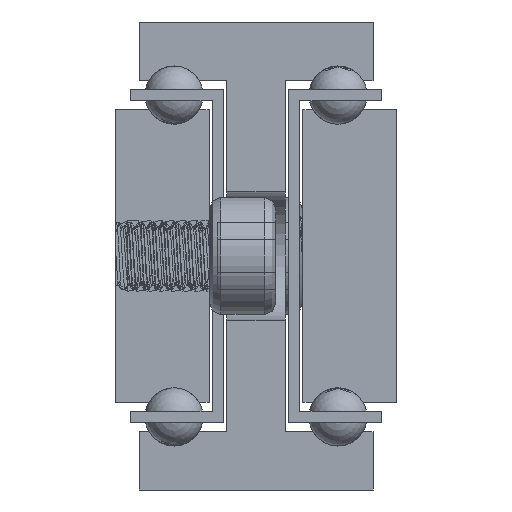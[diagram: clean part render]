
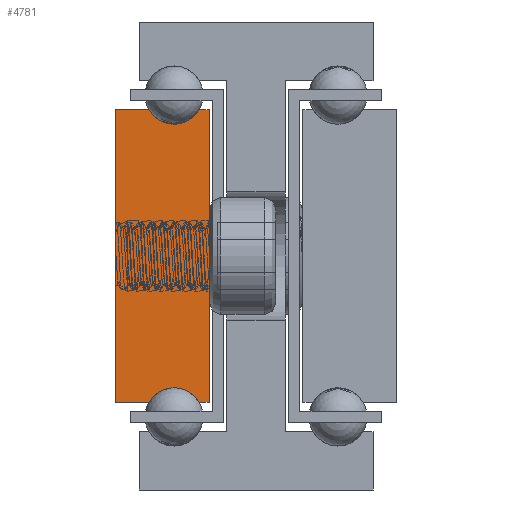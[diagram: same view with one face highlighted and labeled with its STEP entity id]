
A CAD part, front view. The second image highlights one B-rep face of the part: STEP entity #4781.
In plain terms, the highlighted planar face has unit normal (0, -1, 0).
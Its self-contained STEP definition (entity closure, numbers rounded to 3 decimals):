
#468=LINE('',#49206,#678);
#471=LINE('',#49212,#681);
#475=LINE('',#49224,#685);
#478=LINE('',#49230,#688);
#481=LINE('',#49236,#691);
#485=LINE('',#49246,#695);
#678=VECTOR('',#5664,1.);
#681=VECTOR('',#5669,1.);
#685=VECTOR('',#5681,1.);
#688=VECTOR('',#5686,1.);
#691=VECTOR('',#5691,1.);
#695=VECTOR('',#5703,1.);
#893=PLANE('',#5146);
#985=CIRCLE('',#5137,2.5);
#987=CIRCLE('',#5143,2.5);
#1353=FACE_OUTER_BOUND('',#1663,.T.);
#1663=EDGE_LOOP('',(#3662,#3663,#3664,#3665,#3666,#3667,#3668,#3669));
#2350=VERTEX_POINT('',#49203);
#2351=VERTEX_POINT('',#49205);
#2353=VERTEX_POINT('',#49211);
#2355=VERTEX_POINT('',#49217);
#2357=VERTEX_POINT('',#49223);
#2359=VERTEX_POINT('',#49229);
#2361=VERTEX_POINT('',#49235);
#2363=VERTEX_POINT('',#49241);
#2920=EDGE_CURVE('',#2351,#2350,#468,.T.);
#2923=EDGE_CURVE('',#2353,#2351,#471,.T.);
#2926=EDGE_CURVE('',#2355,#2353,#985,.T.);
#2929=EDGE_CURVE('',#2357,#2355,#475,.T.);
#2932=EDGE_CURVE('',#2359,#2357,#478,.T.);
#2935=EDGE_CURVE('',#2361,#2359,#481,.T.);
#2938=EDGE_CURVE('',#2363,#2361,#987,.T.);
#2941=EDGE_CURVE('',#2350,#2363,#485,.T.);
#3662=ORIENTED_EDGE('',*,*,#2941,.T.);
#3663=ORIENTED_EDGE('',*,*,#2938,.T.);
#3664=ORIENTED_EDGE('',*,*,#2935,.T.);
#3665=ORIENTED_EDGE('',*,*,#2932,.T.);
#3666=ORIENTED_EDGE('',*,*,#2929,.T.);
#3667=ORIENTED_EDGE('',*,*,#2926,.T.);
#3668=ORIENTED_EDGE('',*,*,#2923,.T.);
#3669=ORIENTED_EDGE('',*,*,#2920,.T.);
#4781=ADVANCED_FACE('',(#1353),#893,.T.);
#5137=AXIS2_PLACEMENT_3D('',#49218,#5675,#5676);
#5143=AXIS2_PLACEMENT_3D('',#49242,#5697,#5698);
#5146=AXIS2_PLACEMENT_3D('',#49248,#5706,#5707);
#5664=DIRECTION('',(0.,0.,-1.));
#5669=DIRECTION('',(-1.,0.,0.));
#5675=DIRECTION('center_axis',(0.,1.,0.));
#5676=DIRECTION('ref_axis',(-0.866,0.,-0.5));
#5681=DIRECTION('',(-1.,0.,0.));
#5686=DIRECTION('',(0.,0.,1.));
#5691=DIRECTION('',(1.,0.,0.));
#5697=DIRECTION('center_axis',(0.,1.,0.));
#5698=DIRECTION('ref_axis',(0.866,0.,0.5));
#5703=DIRECTION('',(1.,0.,0.));
#5706=DIRECTION('center_axis',(0.,-1.,0.));
#5707=DIRECTION('ref_axis',(1.,0.,0.));
#49203=CARTESIAN_POINT('',(-423.375,-855.349,412.5));
#49205=CARTESIAN_POINT('',(-423.375,-855.349,437.5));
#49206=CARTESIAN_POINT('',(-423.375,-855.349,412.5));
#49211=CARTESIAN_POINT('',(-420.54,-855.349,437.5));
#49212=CARTESIAN_POINT('',(-423.375,-855.349,437.5));
#49217=CARTESIAN_POINT('',(-416.21,-855.349,437.5));
#49218=CARTESIAN_POINT('Origin',(-418.375,-855.349,438.75));
#49223=CARTESIAN_POINT('',(-415.375,-855.349,437.5));
#49224=CARTESIAN_POINT('',(-416.21,-855.349,437.5));
#49229=CARTESIAN_POINT('',(-415.375,-855.349,412.5));
#49230=CARTESIAN_POINT('',(-415.375,-855.349,437.5));
#49235=CARTESIAN_POINT('',(-416.21,-855.349,412.5));
#49236=CARTESIAN_POINT('',(-415.375,-855.349,412.5));
#49241=CARTESIAN_POINT('',(-420.54,-855.349,412.5));
#49242=CARTESIAN_POINT('Origin',(-418.375,-855.349,411.25));
#49246=CARTESIAN_POINT('',(-420.54,-855.349,412.5));
#49248=CARTESIAN_POINT('Origin',(-419.387,-855.349,425.));
